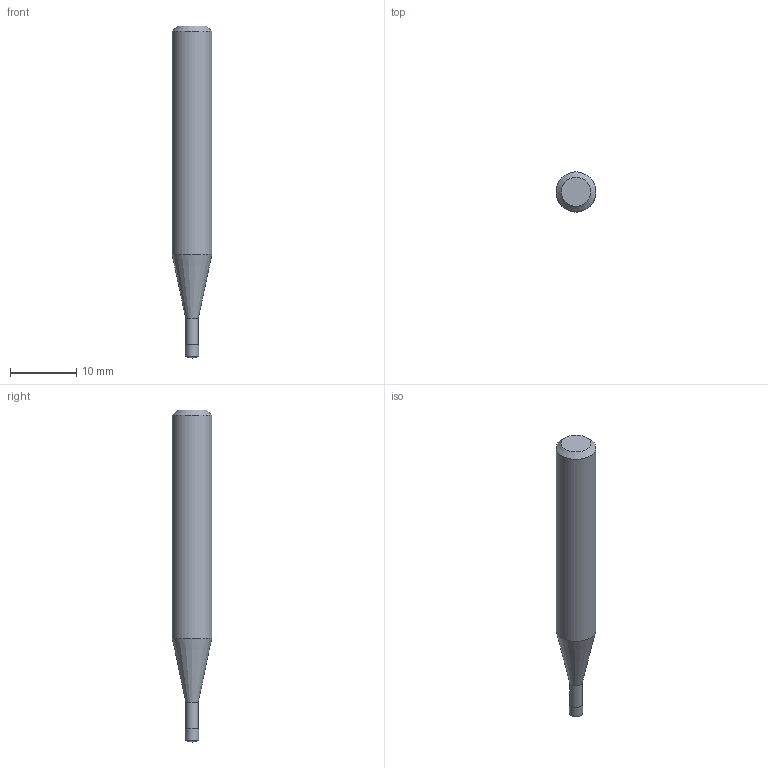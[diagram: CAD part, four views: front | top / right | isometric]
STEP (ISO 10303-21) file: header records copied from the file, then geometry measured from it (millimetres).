
FILE_DESCRIPTION((''),'2;1');
FILE_NAME('C:\Users\nsx150\AppData\Local\Temp\Mastercam 2022\ZJNICECW0E\TEMP.stp','2023-10-12T14:17:25',(''),(''),'STEP Write','Mastercam 2022 ... CNC Software, Inc.','');
FILE_SCHEMA(('AUTOMOTIVE_DESIGN'));
Length unit declared in the file: millimetre
Products named in the file (1): None
Bounding box: 6 x 6 x 50 mm (x, y, z)
Volume: 1112.6 mm3; surface area: 833.1 mm2
Topology: 2 solids, 2 shells, 11 faces, 18 edges, 11 vertices
Faces by surface type: plane 4, cylinder 3, cone 2, sphere 1, torus 1
Full cylindrical faces by diameter (mm): 1.91 x1, 2 x1, 6 x1
Entity records: 253 total; most frequent: DIRECTION 44, CARTESIAN_POINT 31, AXIS2_PLACEMENT_3D 22, ORIENTED_EDGE 18, EDGE_LOOP 18, STYLED_ITEM 14, FACE_BOUND 11, ADVANCED_FACE 11
